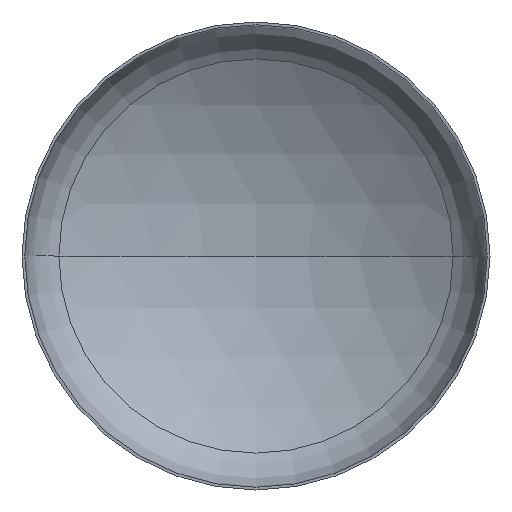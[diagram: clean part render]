
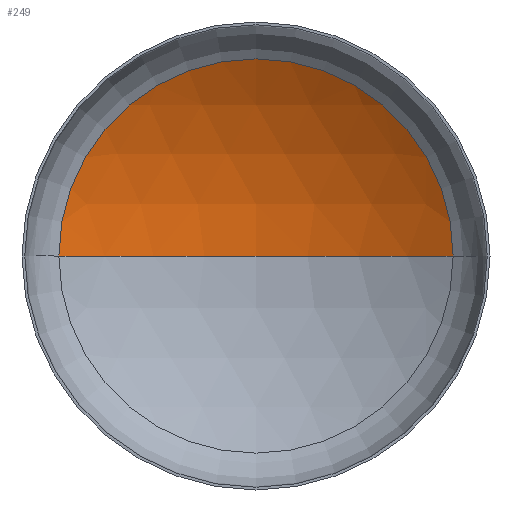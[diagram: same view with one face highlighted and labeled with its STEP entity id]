
A CAD part, front view. The second image highlights one B-rep face of the part: STEP entity #249.
In plain terms, the highlighted spherical face has radius 6000 mm.
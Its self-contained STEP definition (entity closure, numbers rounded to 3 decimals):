
#8 = DIRECTION ( 'NONE',  ( 1., 0., 0. ) ) ;
#12 = ORIENTED_EDGE ( 'NONE', *, *, #126, .T. ) ;
#19 = DIRECTION ( 'NONE',  ( 0., 0., -1. ) ) ;
#29 = CARTESIAN_POINT ( 'NONE',  ( 0., -3979.032, 0. ) ) ;
#30 = ORIENTED_EDGE ( 'NONE', *, *, #132, .T. ) ;
#31 = AXIS2_PLACEMENT_3D ( 'NONE', #29, #19, #390 ) ;
#44 = VERTEX_POINT ( 'NONE', #250 ) ;
#66 = AXIS2_PLACEMENT_3D ( 'NONE', #140, #175, #8 ) ;
#72 = AXIS2_PLACEMENT_3D ( 'NONE', #193, #222, #383 ) ;
#73 = AXIS2_PLACEMENT_3D ( 'NONE', #286, #285, #217 ) ;
#81 = ORIENTED_EDGE ( 'NONE', *, *, #135, .F. ) ;
#109 = VERTEX_POINT ( 'NONE', #278 ) ;
#120 = EDGE_LOOP ( 'NONE', ( #81, #30, #12 ) ) ;
#126 = EDGE_CURVE ( 'NONE', #109, #308, #171, .T. ) ;
#132 = EDGE_CURVE ( 'NONE', #44, #109, #282, .T. ) ;
#135 = EDGE_CURVE ( 'NONE', #44, #308, #230, .T. ) ;
#140 = CARTESIAN_POINT ( 'NONE',  ( 0., -3979.032, 0. ) ) ;
#163 = CARTESIAN_POINT ( 'NONE',  ( -3159.133, 1121.936, 0. ) ) ;
#171 = CIRCLE ( 'NONE', #73, 3159.133 ) ;
#175 = DIRECTION ( 'NONE',  ( 0., 0., 1. ) ) ;
#193 = CARTESIAN_POINT ( 'NONE',  ( 0., -3979.032, 0. ) ) ;
#217 = DIRECTION ( 'NONE',  ( 1., 0., 0. ) ) ;
#222 = DIRECTION ( 'NONE',  ( 0., 0., -1. ) ) ;
#230 = CIRCLE ( 'NONE', #66, 6000. ) ;
#249 = ADVANCED_FACE ( 'NONE', ( #332 ), #394, .F. ) ;
#250 = CARTESIAN_POINT ( 'NONE',  ( 0., 2020.968, 0. ) ) ;
#278 = CARTESIAN_POINT ( 'NONE',  ( 3159.133, 1121.936, 0. ) ) ;
#282 = CIRCLE ( 'NONE', #72, 6000. ) ;
#285 = DIRECTION ( 'NONE',  ( 0., -1., 0. ) ) ;
#286 = CARTESIAN_POINT ( 'NONE',  ( 0., 1121.936, 0. ) ) ;
#308 = VERTEX_POINT ( 'NONE', #163 ) ;
#332 = FACE_OUTER_BOUND ( 'NONE', #120, .T. ) ;
#383 = DIRECTION ( 'NONE',  ( -1., 0., 0. ) ) ;
#390 = DIRECTION ( 'NONE',  ( -1., 0., 0. ) ) ;
#394 = SPHERICAL_SURFACE ( 'NONE', #31, 6000. ) ;
